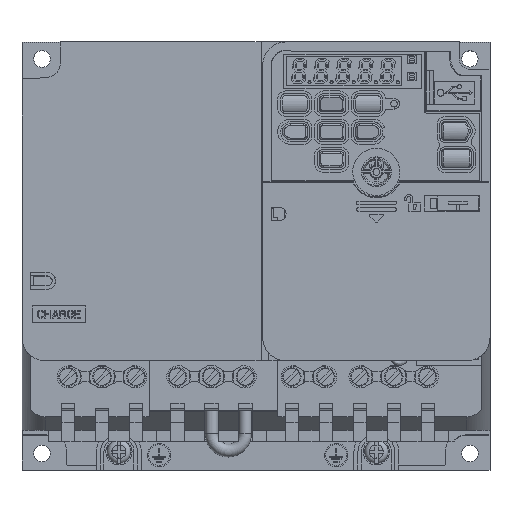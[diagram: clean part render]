
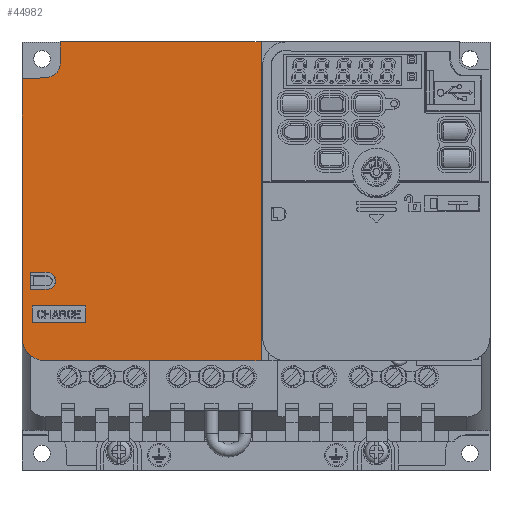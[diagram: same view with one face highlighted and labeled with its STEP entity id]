
A CAD part, top view. The second image highlights one B-rep face of the part: STEP entity #44982.
In plain terms, the highlighted planar face has unit normal (0, 0, 1).
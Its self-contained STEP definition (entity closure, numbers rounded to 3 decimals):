
#3326=CARTESIAN_POINT('',(-63.,39.6,143.));
#3327=DIRECTION('',(0.,0.,1.));
#3328=DIRECTION('',(-1.,0.,0.));
#3329=AXIS2_PLACEMENT_3D('',#3326,#3327,#3328);
#3331=DIRECTION('',(0.,-1.,0.));
#3332=VECTOR('',#3331,77.297);
#3333=CARTESIAN_POINT('',(-70.,116.897,143.));
#3334=LINE('',#3333,#3332);
#3335=DIRECTION('',(0.999,0.052,0.));
#3336=VECTOR('',#3335,7.245);
#3337=CARTESIAN_POINT('',(-70.,116.897,143.));
#3338=LINE('',#3337,#3336);
#3339=DIRECTION('',(0.,-1.,0.));
#3340=VECTOR('',#3339,6.23);
#3341=CARTESIAN_POINT('',(-58.5,128.,143.));
#3342=LINE('',#3341,#3340);
#3343=DIRECTION('',(-1.,0.,0.));
#3344=VECTOR('',#3343,60.);
#3345=CARTESIAN_POINT('',(1.5,128.,143.));
#3346=LINE('',#3345,#3344);
#3347=DIRECTION('',(0.,1.,0.));
#3348=VECTOR('',#3347,95.4);
#3349=CARTESIAN_POINT('',(1.5,32.6,143.));
#3350=LINE('',#3349,#3348);
#3351=DIRECTION('',(1.,0.,0.));
#3352=VECTOR('',#3351,64.5);
#3353=CARTESIAN_POINT('',(-63.,32.6,143.));
#3354=LINE('',#3353,#3352);
#3355=DIRECTION('',(-1.,0.,0.));
#3356=VECTOR('',#3355,5.052);
#3357=CARTESIAN_POINT('',(-62.5,53.948,143.));
#3358=LINE('',#3357,#3356);
#3359=CARTESIAN_POINT('',(-62.5,56.5,143.));
#3360=DIRECTION('',(0.,0.,-1.));
#3361=DIRECTION('',(0.,1.,0.));
#3362=AXIS2_PLACEMENT_3D('',#3359,#3360,#3361);
#3364=DIRECTION('',(1.,0.,0.));
#3365=VECTOR('',#3364,5.052);
#3366=CARTESIAN_POINT('',(-67.552,59.052,143.));
#3367=LINE('',#3366,#3365);
#3368=DIRECTION('',(0.,1.,0.));
#3369=VECTOR('',#3368,5.105);
#3370=CARTESIAN_POINT('',(-67.552,53.948,143.));
#3371=LINE('',#3370,#3369);
#3372=DIRECTION('',(0.,-1.,0.));
#3373=VECTOR('',#3372,5.);
#3374=CARTESIAN_POINT('',(-67.,49.,143.));
#3375=LINE('',#3374,#3373);
#3376=DIRECTION('',(1.,0.,0.));
#3377=VECTOR('',#3376,16.);
#3378=CARTESIAN_POINT('',(-67.,44.,143.));
#3379=LINE('',#3378,#3377);
#3380=DIRECTION('',(0.,1.,0.));
#3381=VECTOR('',#3380,5.);
#3382=CARTESIAN_POINT('',(-51.,44.,143.));
#3383=LINE('',#3382,#3381);
#3384=DIRECTION('',(-1.,0.,0.));
#3385=VECTOR('',#3384,16.);
#3386=CARTESIAN_POINT('',(-51.,49.,143.));
#3387=LINE('',#3386,#3385);
#3397=CARTESIAN_POINT('',(-63.,121.77,143.));
#3398=DIRECTION('',(0.,0.,-1.));
#3399=DIRECTION('',(1.,0.,0.));
#3400=AXIS2_PLACEMENT_3D('',#3397,#3398,#3399);
#34049=CARTESIAN_POINT('',(1.5,32.6,143.));
#34050=CARTESIAN_POINT('',(1.5,128.,143.));
#34051=VERTEX_POINT('',#34049);
#34052=VERTEX_POINT('',#34050);
#35281=CARTESIAN_POINT('',(-58.5,128.,143.));
#35282=VERTEX_POINT('',#35281);
#35293=CARTESIAN_POINT('',(-67.,49.,143.));
#35294=VERTEX_POINT('',#35293);
#35295=CARTESIAN_POINT('',(-67.,44.,143.));
#35296=VERTEX_POINT('',#35295);
#35297=CARTESIAN_POINT('',(-51.,44.,143.));
#35298=VERTEX_POINT('',#35297);
#35299=CARTESIAN_POINT('',(-51.,49.,143.));
#35300=VERTEX_POINT('',#35299);
#36539=CARTESIAN_POINT('',(-70.,116.897,143.));
#36541=VERTEX_POINT('',#36539);
#36543=CARTESIAN_POINT('',(-62.764,117.277,143.));
#36545=VERTEX_POINT('',#36543);
#36547=CARTESIAN_POINT('',(-58.5,121.77,143.));
#36549=VERTEX_POINT('',#36547);
#36933=CARTESIAN_POINT('',(-62.5,53.948,143.));
#36934=CARTESIAN_POINT('',(-67.552,53.948,143.));
#36935=VERTEX_POINT('',#36933);
#36936=VERTEX_POINT('',#36934);
#36937=CARTESIAN_POINT('',(-67.552,59.052,143.));
#36938=CARTESIAN_POINT('',(-62.5,59.052,143.));
#36939=VERTEX_POINT('',#36937);
#36940=VERTEX_POINT('',#36938);
#39733=CARTESIAN_POINT('',(-70.,39.6,143.));
#39735=VERTEX_POINT('',#39733);
#39737=CARTESIAN_POINT('',(-63.,32.6,143.));
#39738=VERTEX_POINT('',#39737);
#44941=CARTESIAN_POINT('',(0.,0.,143.));
#44942=DIRECTION('',(0.,0.,1.));
#44943=DIRECTION('',(1.,0.,0.));
#44944=AXIS2_PLACEMENT_3D('',#44941,#44942,#44943);
#44945=PLANE('',#44944);
#44946=ORIENTED_EDGE('',*,*,#44921,.F.);
#44947=ORIENTED_EDGE('',*,*,#44625,.F.);
#44949=ORIENTED_EDGE('',*,*,#44948,.T.);
#44951=ORIENTED_EDGE('',*,*,#44950,.F.);
#44953=ORIENTED_EDGE('',*,*,#44952,.F.);
#44955=ORIENTED_EDGE('',*,*,#44954,.F.);
#44957=ORIENTED_EDGE('',*,*,#44956,.F.);
#44959=ORIENTED_EDGE('',*,*,#44958,.F.);
#44960=EDGE_LOOP('',(#44946,#44947,#44949,#44951,#44953,#44955,#44957,#44959));
#44961=FACE_OUTER_BOUND('',#44960,.F.);
#44963=ORIENTED_EDGE('',*,*,#44962,.F.);
#44965=ORIENTED_EDGE('',*,*,#44964,.F.);
#44967=ORIENTED_EDGE('',*,*,#44966,.F.);
#44969=ORIENTED_EDGE('',*,*,#44968,.F.);
#44970=EDGE_LOOP('',(#44963,#44965,#44967,#44969));
#44971=FACE_BOUND('',#44970,.F.);
#44973=ORIENTED_EDGE('',*,*,#44972,.T.);
#44975=ORIENTED_EDGE('',*,*,#44974,.T.);
#44977=ORIENTED_EDGE('',*,*,#44976,.T.);
#44979=ORIENTED_EDGE('',*,*,#44978,.T.);
#44980=EDGE_LOOP('',(#44973,#44975,#44977,#44979));
#44981=FACE_BOUND('',#44980,.F.);
#3330=CIRCLE('',#3329,7.);
#3363=CIRCLE('',#3362,2.552);
#3401=CIRCLE('',#3400,4.5);
#44625=EDGE_CURVE('',#36541,#39735,#3334,.T.);
#44921=EDGE_CURVE('',#39735,#39738,#3330,.T.);
#44948=EDGE_CURVE('',#36541,#36545,#3338,.T.);
#44950=EDGE_CURVE('',#36549,#36545,#3401,.T.);
#44952=EDGE_CURVE('',#35282,#36549,#3342,.T.);
#44954=EDGE_CURVE('',#34052,#35282,#3346,.T.);
#44956=EDGE_CURVE('',#34051,#34052,#3350,.T.);
#44958=EDGE_CURVE('',#39738,#34051,#3354,.T.);
#44962=EDGE_CURVE('',#36935,#36936,#3358,.T.);
#44964=EDGE_CURVE('',#36940,#36935,#3363,.T.);
#44966=EDGE_CURVE('',#36939,#36940,#3367,.T.);
#44968=EDGE_CURVE('',#36936,#36939,#3371,.T.);
#44972=EDGE_CURVE('',#35294,#35296,#3375,.T.);
#44974=EDGE_CURVE('',#35296,#35298,#3379,.T.);
#44976=EDGE_CURVE('',#35298,#35300,#3383,.T.);
#44978=EDGE_CURVE('',#35300,#35294,#3387,.T.);
#44982=ADVANCED_FACE('',(#44961,#44971,#44981),#44945,.T.);
